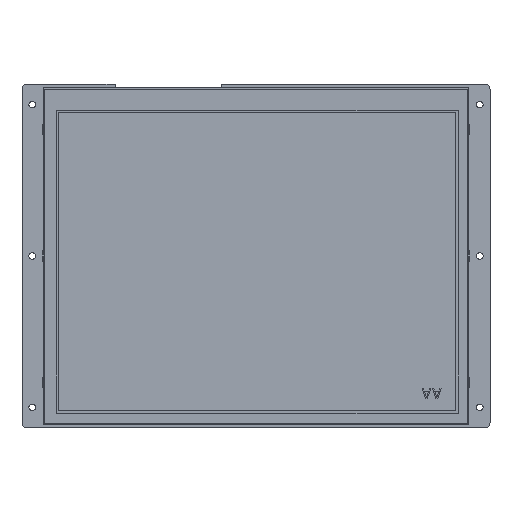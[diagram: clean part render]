
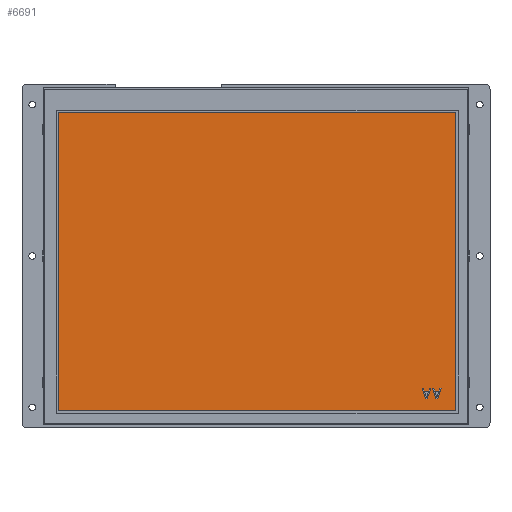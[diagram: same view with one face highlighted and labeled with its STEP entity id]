
A CAD part, front view. The second image highlights one B-rep face of the part: STEP entity #6691.
In plain terms, the highlighted planar face has unit normal (0, -1, 0) as drawn and (0, 1, 0) by its records, which use the part's own axes.
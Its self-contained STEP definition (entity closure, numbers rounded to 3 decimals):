
#6003=DIRECTION('',(0.,0.,1.));
#6004=VECTOR('',#6003,148.06);
#6005=CARTESIAN_POINT('',(-99.15,1.3,-76.61));
#6006=LINE('',#6005,#6004);
#6007=DIRECTION('',(-1.,0.,0.));
#6008=VECTOR('',#6007,197.2);
#6009=CARTESIAN_POINT('',(98.05,1.3,-76.61));
#6010=LINE('',#6009,#6008);
#6011=DIRECTION('',(0.,0.,-1.));
#6012=VECTOR('',#6011,148.06);
#6013=CARTESIAN_POINT('',(98.05,1.3,71.45));
#6014=LINE('',#6013,#6012);
#6015=DIRECTION('',(1.,0.,0.));
#6016=VECTOR('',#6015,197.2);
#6017=CARTESIAN_POINT('',(-99.15,1.3,71.45));
#6018=LINE('',#6017,#6016);
#6019=DIRECTION('',(0.316,0.,0.949));
#6020=VECTOR('',#6019,5.471);
#6021=CARTESIAN_POINT('',(-89.301,1.3,-70.716));
#6022=LINE('',#6021,#6020);
#6023=DIRECTION('',(1.,0.,0.));
#6024=VECTOR('',#6023,0.865);
#6025=CARTESIAN_POINT('',(-90.166,1.3,-70.716));
#6026=LINE('',#6025,#6024);
#6027=DIRECTION('',(0.316,0.,-0.949));
#6028=VECTOR('',#6027,5.471);
#6029=CARTESIAN_POINT('',(-91.896,1.3,-65.526));
#6030=LINE('',#6029,#6028);
#6031=DIRECTION('',(-1.,0.,0.));
#6032=VECTOR('',#6031,0.649);
#6033=CARTESIAN_POINT('',(-91.248,1.3,-65.526));
#6034=LINE('',#6033,#6032);
#6035=DIRECTION('',(-0.31,0.,0.951));
#6036=VECTOR('',#6035,1.394);
#6037=CARTESIAN_POINT('',(-90.815,1.3,-66.851));
#6038=LINE('',#6037,#6036);
#6039=DIRECTION('',(-1.,0.,0.));
#6040=VECTOR('',#6039,2.163);
#6041=CARTESIAN_POINT('',(-88.653,1.3,-66.851));
#6042=LINE('',#6041,#6040);
#6043=DIRECTION('',(-0.31,0.,-0.951));
#6044=VECTOR('',#6043,1.394);
#6045=CARTESIAN_POINT('',(-88.22,1.3,-65.526));
#6046=LINE('',#6045,#6044);
#6047=DIRECTION('',(-1.,0.,0.));
#6048=VECTOR('',#6047,0.649);
#6049=CARTESIAN_POINT('',(-87.571,1.3,-65.526));
#6050=LINE('',#6049,#6048);
#6063=DIRECTION('',(0.316,0.,0.949));
#6064=VECTOR('',#6063,5.471);
#6065=CARTESIAN_POINT('',(-84.111,1.3,-70.716));
#6066=LINE('',#6065,#6064);
#6067=DIRECTION('',(1.,0.,0.));
#6068=VECTOR('',#6067,0.865);
#6069=CARTESIAN_POINT('',(-84.976,1.3,-70.716));
#6070=LINE('',#6069,#6068);
#6071=DIRECTION('',(0.316,0.,-0.949));
#6072=VECTOR('',#6071,5.471);
#6073=CARTESIAN_POINT('',(-86.706,1.3,-65.526));
#6074=LINE('',#6073,#6072);
#6075=DIRECTION('',(-1.,0.,0.));
#6076=VECTOR('',#6075,0.649);
#6077=CARTESIAN_POINT('',(-86.058,1.3,-65.526));
#6078=LINE('',#6077,#6076);
#6079=DIRECTION('',(-0.31,0.,0.951));
#6080=VECTOR('',#6079,1.394);
#6081=CARTESIAN_POINT('',(-85.625,1.3,-66.851));
#6082=LINE('',#6081,#6080);
#6083=DIRECTION('',(-1.,0.,0.));
#6084=VECTOR('',#6083,2.162);
#6085=CARTESIAN_POINT('',(-83.463,1.3,-66.851));
#6086=LINE('',#6085,#6084);
#6087=DIRECTION('',(-0.31,0.,-0.951));
#6088=VECTOR('',#6087,1.394);
#6089=CARTESIAN_POINT('',(-83.03,1.3,-65.526));
#6090=LINE('',#6089,#6088);
#6091=DIRECTION('',(-1.,0.,0.));
#6092=VECTOR('',#6091,0.649);
#6093=CARTESIAN_POINT('',(-82.381,1.3,-65.526));
#6094=LINE('',#6093,#6092);
#6227=CARTESIAN_POINT('',(-99.15,1.3,-76.61));
#6228=CARTESIAN_POINT('',(-99.15,1.3,71.45));
#6229=VERTEX_POINT('',#6227);
#6230=VERTEX_POINT('',#6228);
#6231=CARTESIAN_POINT('',(98.05,1.3,71.45));
#6232=VERTEX_POINT('',#6231);
#6233=CARTESIAN_POINT('',(98.05,1.3,-76.61));
#6234=VERTEX_POINT('',#6233);
#6235=CARTESIAN_POINT('',(-89.301,1.3,-70.716));
#6236=CARTESIAN_POINT('',(-87.571,1.3,-65.526));
#6237=VERTEX_POINT('',#6235);
#6238=VERTEX_POINT('',#6236);
#6239=CARTESIAN_POINT('',(-88.22,1.3,-65.526));
#6240=VERTEX_POINT('',#6239);
#6241=CARTESIAN_POINT('',(-88.653,1.3,-66.851));
#6242=VERTEX_POINT('',#6241);
#6243=CARTESIAN_POINT('',(-90.815,1.3,-66.851));
#6244=VERTEX_POINT('',#6243);
#6245=CARTESIAN_POINT('',(-91.248,1.3,-65.526));
#6246=VERTEX_POINT('',#6245);
#6247=CARTESIAN_POINT('',(-91.896,1.3,-65.526));
#6248=VERTEX_POINT('',#6247);
#6249=CARTESIAN_POINT('',(-90.166,1.3,-70.716));
#6250=VERTEX_POINT('',#6249);
#6257=CARTESIAN_POINT('',(-84.111,1.3,-70.716));
#6258=CARTESIAN_POINT('',(-82.381,1.3,-65.526));
#6259=VERTEX_POINT('',#6257);
#6260=VERTEX_POINT('',#6258);
#6261=CARTESIAN_POINT('',(-83.03,1.3,-65.526));
#6262=VERTEX_POINT('',#6261);
#6263=CARTESIAN_POINT('',(-83.463,1.3,-66.851));
#6264=VERTEX_POINT('',#6263);
#6265=CARTESIAN_POINT('',(-85.625,1.3,-66.851));
#6266=VERTEX_POINT('',#6265);
#6267=CARTESIAN_POINT('',(-86.058,1.3,-65.526));
#6268=VERTEX_POINT('',#6267);
#6269=CARTESIAN_POINT('',(-86.706,1.3,-65.526));
#6270=VERTEX_POINT('',#6269);
#6271=CARTESIAN_POINT('',(-84.976,1.3,-70.716));
#6272=VERTEX_POINT('',#6271);
#6644=CARTESIAN_POINT('',(0.,1.3,0.));
#6645=DIRECTION('',(0.,1.,0.));
#6646=DIRECTION('',(1.,0.,0.));
#6647=AXIS2_PLACEMENT_3D('',#6644,#6645,#6646);
#6648=PLANE('',#6647);
#6649=ORIENTED_EDGE('',*,*,#6596,.F.);
#6650=ORIENTED_EDGE('',*,*,#6611,.F.);
#6651=ORIENTED_EDGE('',*,*,#6625,.F.);
#6652=ORIENTED_EDGE('',*,*,#6638,.F.);
#6653=EDGE_LOOP('',(#6649,#6650,#6651,#6652));
#6654=FACE_OUTER_BOUND('',#6653,.F.);
#6656=ORIENTED_EDGE('',*,*,#6655,.F.);
#6658=ORIENTED_EDGE('',*,*,#6657,.F.);
#6660=ORIENTED_EDGE('',*,*,#6659,.F.);
#6662=ORIENTED_EDGE('',*,*,#6661,.F.);
#6664=ORIENTED_EDGE('',*,*,#6663,.F.);
#6666=ORIENTED_EDGE('',*,*,#6665,.F.);
#6668=ORIENTED_EDGE('',*,*,#6667,.F.);
#6670=ORIENTED_EDGE('',*,*,#6669,.F.);
#6671=EDGE_LOOP('',(#6656,#6658,#6660,#6662,#6664,#6666,#6668,#6670));
#6672=FACE_BOUND('',#6671,.F.);
#6674=ORIENTED_EDGE('',*,*,#6673,.F.);
#6676=ORIENTED_EDGE('',*,*,#6675,.F.);
#6678=ORIENTED_EDGE('',*,*,#6677,.F.);
#6680=ORIENTED_EDGE('',*,*,#6679,.F.);
#6682=ORIENTED_EDGE('',*,*,#6681,.F.);
#6684=ORIENTED_EDGE('',*,*,#6683,.F.);
#6686=ORIENTED_EDGE('',*,*,#6685,.F.);
#6688=ORIENTED_EDGE('',*,*,#6687,.F.);
#6689=EDGE_LOOP('',(#6674,#6676,#6678,#6680,#6682,#6684,#6686,#6688));
#6690=FACE_BOUND('',#6689,.F.);
#6596=EDGE_CURVE('',#6229,#6230,#6006,.T.);
#6611=EDGE_CURVE('',#6234,#6229,#6010,.T.);
#6625=EDGE_CURVE('',#6232,#6234,#6014,.T.);
#6638=EDGE_CURVE('',#6230,#6232,#6018,.T.);
#6655=EDGE_CURVE('',#6237,#6238,#6022,.T.);
#6657=EDGE_CURVE('',#6250,#6237,#6026,.T.);
#6659=EDGE_CURVE('',#6248,#6250,#6030,.T.);
#6661=EDGE_CURVE('',#6246,#6248,#6034,.T.);
#6663=EDGE_CURVE('',#6244,#6246,#6038,.T.);
#6665=EDGE_CURVE('',#6242,#6244,#6042,.T.);
#6667=EDGE_CURVE('',#6240,#6242,#6046,.T.);
#6669=EDGE_CURVE('',#6238,#6240,#6050,.T.);
#6673=EDGE_CURVE('',#6259,#6260,#6066,.T.);
#6675=EDGE_CURVE('',#6272,#6259,#6070,.T.);
#6677=EDGE_CURVE('',#6270,#6272,#6074,.T.);
#6679=EDGE_CURVE('',#6268,#6270,#6078,.T.);
#6681=EDGE_CURVE('',#6266,#6268,#6082,.T.);
#6683=EDGE_CURVE('',#6264,#6266,#6086,.T.);
#6685=EDGE_CURVE('',#6262,#6264,#6090,.T.);
#6687=EDGE_CURVE('',#6260,#6262,#6094,.T.);
#6691=ADVANCED_FACE('',(#6654,#6672,#6690),#6648,.T.);
